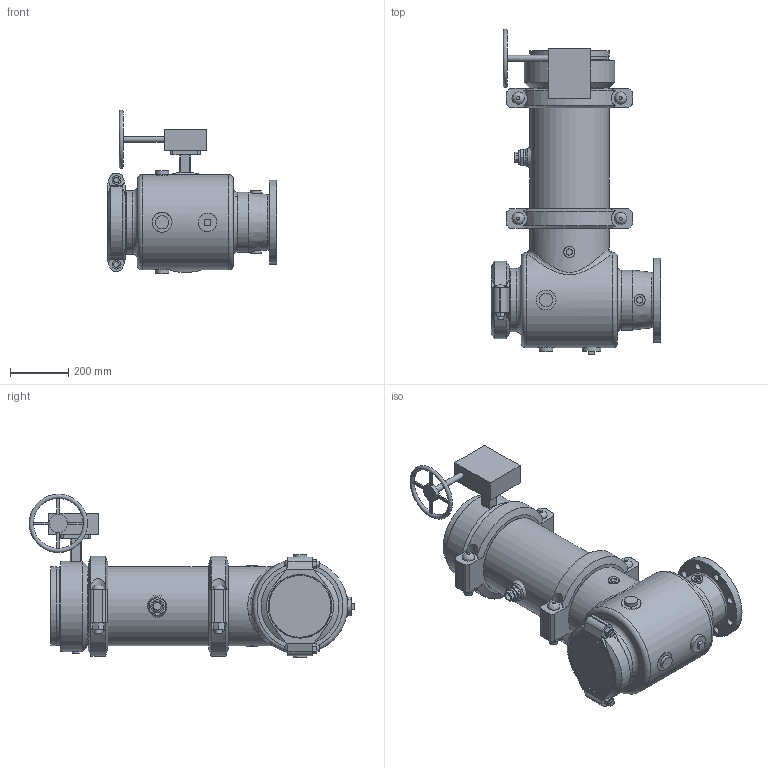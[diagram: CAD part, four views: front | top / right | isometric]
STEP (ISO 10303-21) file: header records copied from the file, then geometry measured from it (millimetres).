
FILE_DESCRIPTION(/* description */ ('VIC SVI PUMP DROP HORZ S/391 (OGSxFLG)','CAx-IF Rec.Pracs.---Representation and Presentation of Product Manufacturing Information (PMI)---4.0---2014-10-13'),/* implementation_level */ '2;1');
FILE_NAME(/* name */ 'C:\Users\Vjadhav\AppData\Roaming\Autodesk\ApplicationPlugins\Victaulic.Temp\A952\Victaulic_IPS_SVI_CL 150_Series 391 (OGSxFLG)_10.0x06.0 (250x150).stp',/* time_stamp */ '2021-04-09T17:54:51+05:00',/* author */ ('kkamble'),/* organization */ ('Victaulic'),/* preprocessor_version */ 'ST-DEVELOPER v17.2',/* originating_system */ 'Autodesk Inventor 2019',/* authorisation */ '');
FILE_SCHEMA (('AP242_MANAGED_MODEL_BASED_3D_ENGINEERING_MIM_LF { 1 0 10303 442 1 1 4 }'));
Length unit declared in the file: inch
Products named in the file (9): 391-10.0x06.0; 731D-10.0x06.0; 731D-10.0x06.0_1; 731D-10.0; 07-08.0; PIPE-10.0; 761-10.0; 077-10.0; 923-10.0x0.75
Assembly tree (9 placements, depth 3):
  391-10.0x06.0
    731D-10.0x06.0
      731D-10.0x06.0_1
      731D-10.0
      07-08.0
    PIPE-10.0
    761-10.0
    077-10.0  x2
    923-10.0x0.75
Bounding box: 584.2 x 1120.12 x 562.59 mm (x, y, z)
Volume: 32545990 mm3; surface area: 3325657.3 mm2
Topology: 8 solids, 15 shells, 447 faces, 1121 edges, 769 vertices
Faces by surface type: plane 249, cylinder 159, cone 19, torus 10, bspline 8, sphere 2
Full cylindrical faces by diameter (mm): 10.922 x4, 12.7 x1, 19.05 x4, 20.066 x1, 21.336 x5, 22.86 x1, 24.994 x8, 25.4 x8, 26.67 x1, 27.432 x4, 32.537 x2, 38.1 x4, 45.72 x3, 45.974 x2, 55.626 x1, 63.079 x1, 63.5 x1, 70.104 x1, 76.2 x1, 152.4 x1, 168.656 x1, 177.8 x1, 193.802 x1, 206.375 x1, 206.502 x1, 214.401 x2, 219.075 x5, 246.888 x1, 254.508 x2, 264.16 x2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
Entity records: 14055 total; most frequent: CARTESIAN_POINT 3599, DIRECTION 2122, ORIENTED_EDGE 1952, EDGE_CURVE 976, AXIS2_PLACEMENT_3D 830, VERTEX_POINT 671, EDGE_LOOP 495, LINE 462
